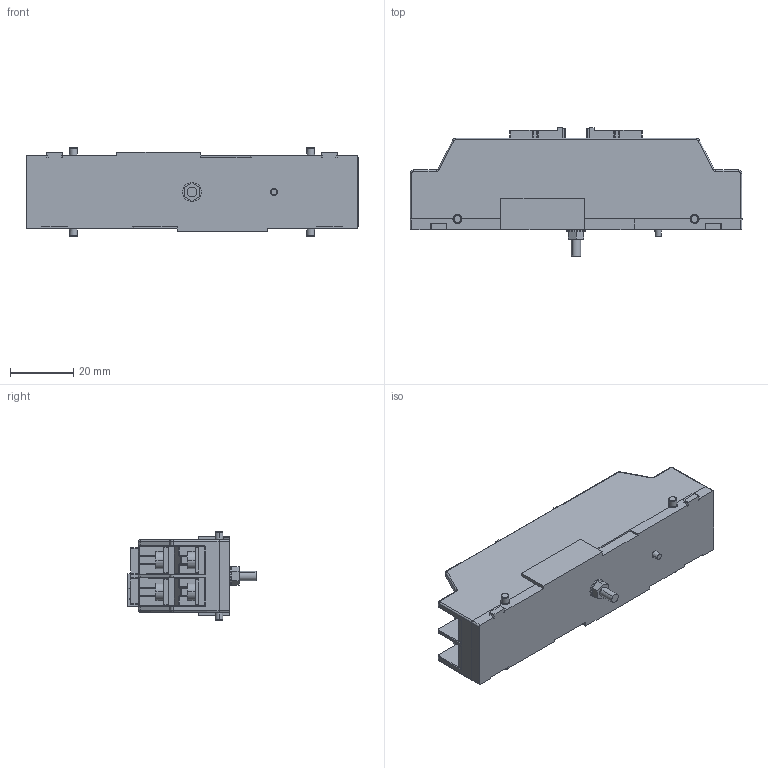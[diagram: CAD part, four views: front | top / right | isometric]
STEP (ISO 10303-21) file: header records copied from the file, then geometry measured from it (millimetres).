
FILE_DESCRIPTION (( 'STEP AP203' ), '1' );
FILE_NAME ('Base DN DE IP10.STEP', '2012-11-15T11:42:22', ( '.' ), ( '.' ), 'SwSTEP 2.0', 'SolidWorks 2011', '' );
FILE_SCHEMA (( 'CONFIG_CONTROL_DESIGN' ));
Length unit declared in the file: millimetre
Products named in the file (1): Base DN DE IP10
Bounding box: 105 x 40.5 x 28 mm (x, y, z)
Volume: 57917 mm3; surface area: 15633.3 mm2
Topology: 1 solids, 5 shells, 989 faces, 2571 edges, 1622 vertices
Faces by surface type: plane 424, cylinder 356, bspline 183, sphere 16, torus 8, cone 2
Entity records: 31424 total; most frequent: CARTESIAN_POINT 9317, ORIENTED_EDGE 5126, DIRECTION 4067, EDGE_CURVE 2563, VERTEX_POINT 1622, VECTOR 1511, LINE 1511, AXIS2_PLACEMENT_3D 1278
